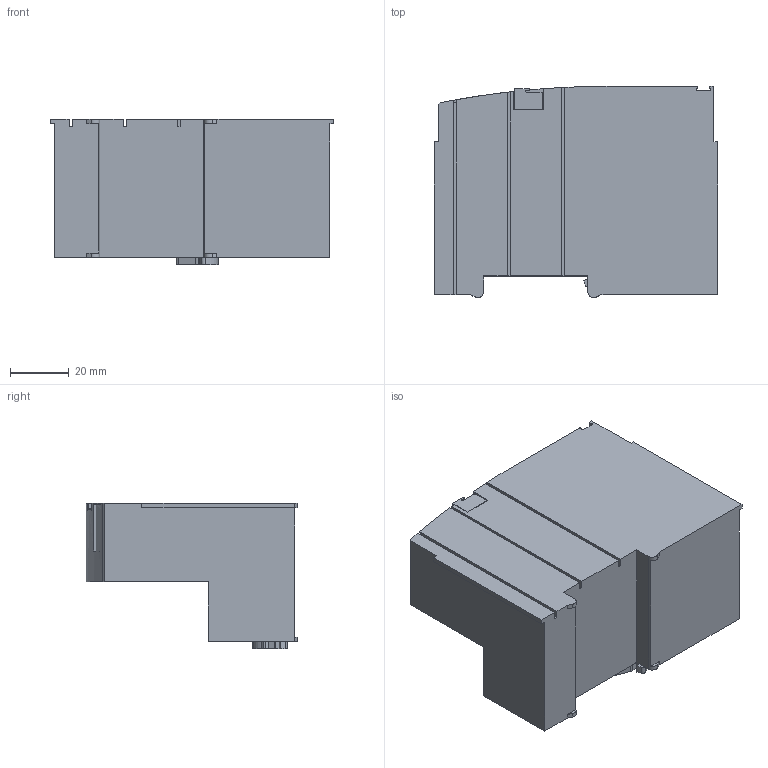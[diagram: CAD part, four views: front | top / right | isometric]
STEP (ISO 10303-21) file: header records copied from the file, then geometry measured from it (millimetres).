
FILE_DESCRIPTION(/* description */ ('STEP AP214'),/* implementation_level */ '2;1');
FILE_NAME(/* name */ '750-362',/* time_stamp */ '2022-08-17T14:44:15+02:00',/* author */ ('License CC BY-ND 4.0'),/* organization */ ('CADENAS'),/* preprocessor_version */ 'ST-DEVELOPER v18.102',/* originating_system */ 'PARTsolutions',/* authorisation */ ' ');
FILE_SCHEMA (('AUTOMOTIVE_DESIGN {1 0 10303 214 3 1 1}'));
Length unit declared in the file: millimetre
Products named in the file (1): 750-362
Bounding box: 96.4 x 71.9 x 49.5 mm (x, y, z)
Volume: 209997.6 mm3; surface area: 32942.7 mm2
Topology: 1 solids, 1 shells, 268 faces, 702 edges, 462 vertices
Faces by surface type: plane 242, cylinder 26
Full cylindrical faces by diameter (mm): 4.3 x2
Entity records: 9987 total; most frequent: CARTESIAN_POINT 1427, ORIENTED_EDGE 1396, DIRECTION 1303, EDGE_CURVE 698, LINE 631, VECTOR 631, VERTEX_POINT 460, AXIS2_PLACEMENT_3D 336
